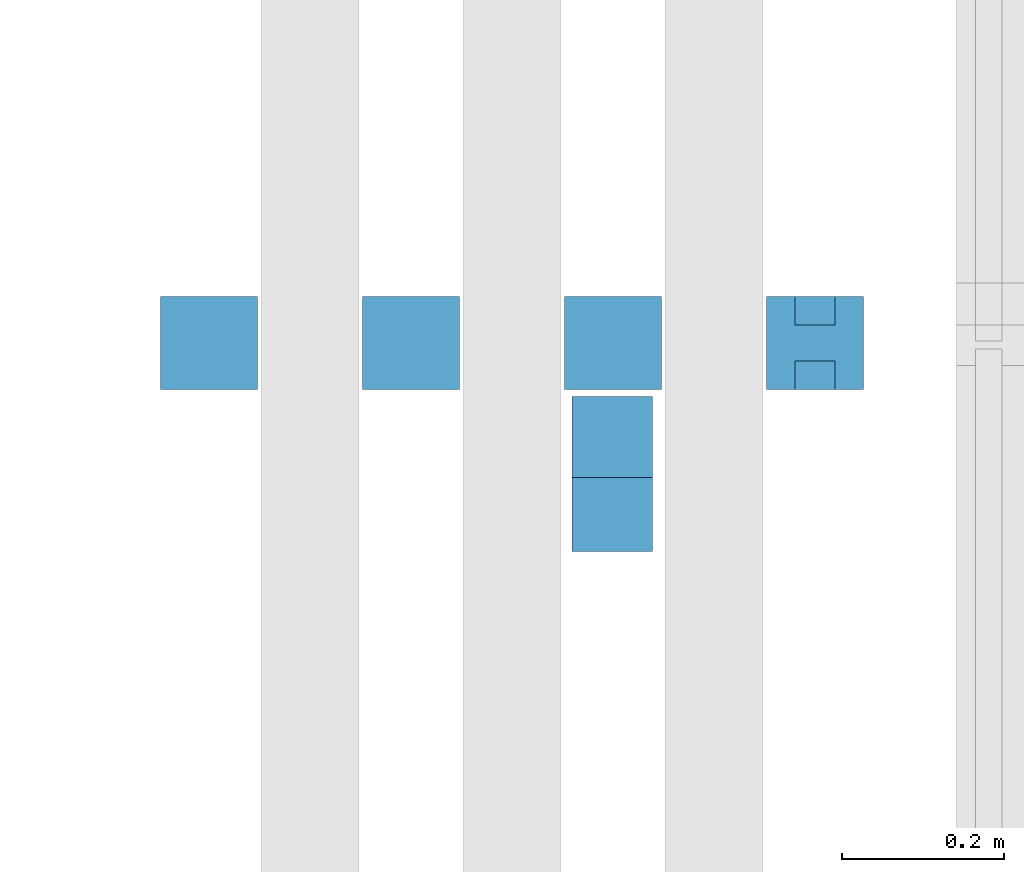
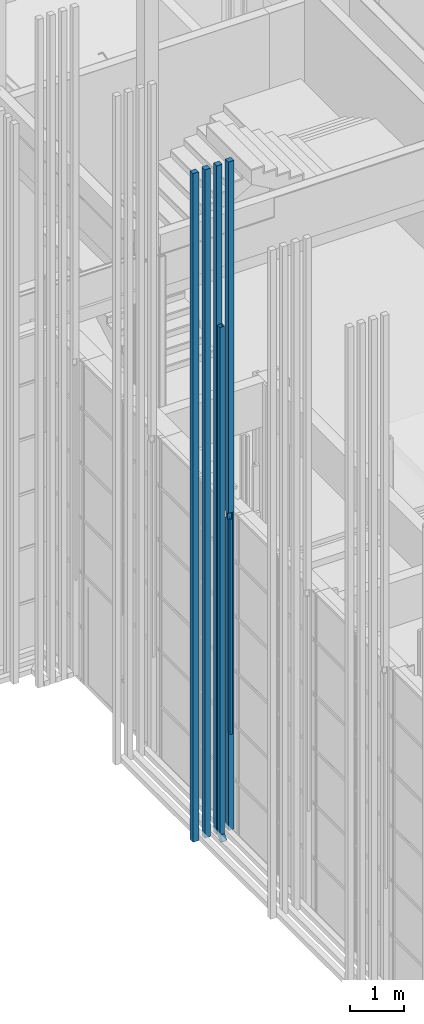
# One storey, part 139 of 260: 4 discrete accessories.
"""IFC2X3 building model written with IfcOpenShell, lengths in millimetres."""

import ifcopenshell
import ifcopenshell.guid

model = None  # the IFC model being written
_history = None  # IfcOwnerHistory: only IFC2X3 demands one
_inside = {}  # id of a spatial element -> (the spatial element, [elements in it])
_under = {}  # id of a project, library or spatial element -> (it, [spatial elements below it])
_declared = {}  # id of a project -> (the project, [libraries it declares])
_typed = {}  # id of a type object -> (the type object, [elements of that type])
_made_of = {}  # id of a material, layer set ... -> (it, [elements and type objects made of it])


def new_model(schema):
    """Start an empty IFC model of exactly this schema.

    Asked for "IFC4X3", IfcOpenShell would pick the latest addendum, in which some entities
    have other attributes; the version numbers below select the first issue.
    IFC2X3 requires an IfcOwnerHistory on every rooted entity: one is made here for all.
    """
    global model, _history
    if schema == "IFC4X3":
        model = ifcopenshell.file(schema_version=(4, 3, 0, 0))
    else:
        model = ifcopenshell.file(schema=schema)
    _inside.clear()
    _under.clear()
    _declared.clear()
    _typed.clear()
    _made_of.clear()
    _history = None
    if model.schema == "IFC2X3":
        org = make("IfcOrganization", Name="unknown")
        user = make(
            "IfcPersonAndOrganization",
            ThePerson=make("IfcPerson", FamilyName="unknown"),
            TheOrganization=org,
        )
        app = make(
            "IfcApplication",
            ApplicationDeveloper=org,
            Version="unknown",
            ApplicationFullName="unknown",
            ApplicationIdentifier="unknown",
        )
        _history = make(
            "IfcOwnerHistory",
            OwningUser=user,
            OwningApplication=app,
            ChangeAction="ADDED",
            CreationDate=0,
        )
    return model


def make(cls, **values):
    """One entity of the class cls with the attributes given. An attribute that is None is left unset."""
    return model.create_entity(
        cls, **{name: value for name, value in values.items() if value is not None}
    )


def entity(cls, *values):
    """Any entity or typed value of the class cls, its attributes in the order of the schema. None: left unset."""
    e = model.create_entity(cls)
    for i, value in enumerate(values):
        if value is not None:
            e[i] = value
    return e


def rooted(cls, **values):
    """An entity with a GlobalId (a new one), such as an element, a storey or a relation."""
    return make(cls, GlobalId=ifcopenshell.guid.new(), OwnerHistory=_history, **values)


def si_unit(unit_type, name, prefix=None):
    """IfcSIUnit, for example si_unit("LENGTHUNIT", "METRE", prefix="MILLI")."""
    return make("IfcSIUnit", UnitType=unit_type, Prefix=prefix, Name=name)


def converted_unit(unit_type, name, factor, base, dimensions=None, offset=None):
    """IfcConversionBasedUnit, such as the inch: factor (a typed value) times the base unit."""
    return make(
        "IfcConversionBasedUnit"
        if offset is None
        else "IfcConversionBasedUnitWithOffset",
        ConversionOffset=offset,
        Dimensions=None
        if dimensions is None
        else entity("IfcDimensionalExponents", *dimensions),
        UnitType=unit_type,
        Name=name,
        ConversionFactor=make(
            "IfcMeasureWithUnit", ValueComponent=factor, UnitComponent=base
        ),
    )


def derived_unit(unit_type, elements):
    """IfcDerivedUnit: a product of units, each with its exponent."""
    return make(
        "IfcDerivedUnit",
        Elements=[
            make("IfcDerivedUnitElement", Unit=unit, Exponent=power)
            for unit, power in elements
        ],
        UnitType=unit_type,
    )


def money_unit(currency):
    """IfcMonetaryUnit."""
    return make("IfcMonetaryUnit", Currency=currency)


def assignment(units):
    """IfcUnitAssignment: the units of a project."""
    return None if units is None else make("IfcUnitAssignment", Units=units)


def point(xyz):
    """IfcCartesianPoint."""
    return None if xyz is None else make("IfcCartesianPoint", Coordinates=xyz)


def direction(xyz):
    """IfcDirection."""
    return None if xyz is None else make("IfcDirection", DirectionRatios=xyz)


def frame(location, z_axis=None, x_axis=None):
    """IfcAxis2Placement3D, a coordinate frame: its origin and axes. An axis left out is left unset."""
    return make(
        "IfcAxis2Placement3D",
        Location=point(location),
        Axis=direction(z_axis),
        RefDirection=direction(x_axis),
    )


def origin_with_axes():
    """The frame at (0, 0, 0) with the z axis (0, 0, 1) and the x axis (1, 0, 0) written out."""
    return frame((0.0, 0.0, 0.0), z_axis=(0.0, 0.0, 1.0), x_axis=(1.0, 0.0, 0.0))


def place(relative_to, where):
    """IfcLocalPlacement: puts the frame where relative to a parent placement (None: the world)."""
    return make(
        "IfcLocalPlacement", PlacementRelTo=relative_to, RelativePlacement=where
    )


def context(
    kind, dimensions, precision=None, world=None, true_north=None, identifier=None
):
    """IfcGeometricRepresentationContext, for example the 3D "Model" context."""
    return make(
        "IfcGeometricRepresentationContext",
        ContextIdentifier=identifier,
        ContextType=kind,
        CoordinateSpaceDimension=dimensions,
        Precision=precision,
        WorldCoordinateSystem=world,
        TrueNorth=true_north,
    )


def subcontext(parent, identifier, kind, view, scale=None):
    """IfcGeometricRepresentationSubContext, for example "Body" below "Model"."""
    return make(
        "IfcGeometricRepresentationSubContext",
        ContextIdentifier=identifier,
        ContextType=kind,
        ParentContext=parent,
        TargetScale=scale,
        TargetView=view,
    )


def project(units=None, contexts=None):
    """IfcProject with its units and contexts."""
    return rooted(
        "IfcProject",
        Name="project",
        RepresentationContexts=contexts,
        UnitsInContext=assignment(units),
    )


def spatial(cls, under=None, at=None, **own):
    """A site, building, storey or space (cls), placed at a placement, below another one or the project."""
    s = rooted(cls, ObjectPlacement=at, **own)
    if under is not None:
        _under.setdefault(under.id(), (under, []))[1].append(s)
    return s


def faces_of(points, faces, orient=None, outer=None):
    """IfcFace entities. A face is a list of loops; a loop is a list of indices into points, from 0.

    orient and outer hold one flag for each loop. By default every Orientation is true, the
    first loop of a face is its IfcFaceOuterBound and the others are IfcFaceBound.
    """
    made = []
    for i, loops in enumerate(faces):
        bounds = []
        for j, loop in enumerate(loops):
            is_outer = j == 0 if outer is None else outer[i][j]
            bounds.append(
                make(
                    "IfcFaceOuterBound" if is_outer else "IfcFaceBound",
                    Bound=make("IfcPolyLoop", Polygon=[points[k] for k in loop]),
                    Orientation=True if orient is None else orient[i][j],
                )
            )
        made.append(make("IfcFace", Bounds=bounds))
    return made


def open_shell(faces, orient=None, outer=None):
    """The faces of one IfcOpenShell. surface_model builds it on its shared points."""
    return ("IfcOpenShell", faces, orient, outer)


def faceted_brep(points, faces, orient=None, outer=None, voids=None):
    """IfcFacetedBrep: a solid bounded by flat faces; with voids (closed shells), ...WithVoids."""
    shared = [point(p) for p in points]
    hull = make("IfcClosedShell", CfsFaces=faces_of(shared, faces, orient, outer))
    if voids is None:
        return make("IfcFacetedBrep", Outer=hull)
    return make(
        "IfcFacetedBrepWithVoids",
        Outer=hull,
        Voids=[
            make(cls, CfsFaces=faces_of(shared, fs, o, b)) for cls, fs, o, b in voids
        ],
    )


def surface_model(cls, points, shells):
    """IfcFaceBasedSurfaceModel or IfcShellBasedSurfaceModel (cls): surfaces that need not close."""
    shared = [point(p) for p in points]
    made = [make(c, CfsFaces=faces_of(shared, fs, o, b)) for c, fs, o, b in shells]
    if cls == "IfcFaceBasedSurfaceModel":
        return make(cls, FbsmFaces=made)
    return make(cls, SbsmBoundary=made)


def shape(context_of_items, identifier, shape_type, items):
    """IfcShapeRepresentation: the items that make up one representation, for example the "Body"."""
    return make(
        "IfcShapeRepresentation",
        ContextOfItems=context_of_items,
        RepresentationIdentifier=identifier,
        RepresentationType=shape_type,
        Items=items,
    )


def material(Name=None, Category=None):
    """IfcMaterial."""
    return make("IfcMaterial", Name=Name, Category=Category)


def material_list(materials):
    """IfcMaterialList."""
    return make("IfcMaterialList", Materials=materials)


def made_of(thing, what):
    """Note that an element or type object is made of a material, layer set ...; save() writes the relation."""
    if what is not None:
        _made_of.setdefault(what.id(), (what, []))[1].append(thing)
    return thing


def type_object(cls, material=None, **own):
    """A type object (cls), such as IfcWallType, which elements share."""
    return made_of(rooted(cls, **own), material)


def element(
    cls,
    number,
    at=None,
    inside=None,
    cuts=None,
    type_object=None,
    material=None,
    context=None,
    identifier="Body",
    shape_type=None,
    held_by="IfcProductDefinitionShape",
    body=None,
    shapes=None,
    **own,
):
    """One element of the class cls, such as IfcWall. Its Tag is "e" and its number.

    at: its placement. inside: the storey or other place that contains it. cuts: it is an
    opening in that element (IfcRelVoidsElement). A single representation is given by context,
    identifier, shape_type and body (its items); several are given by shapes. held_by: the class
    of the entity that holds the representations. save() writes the other relations.
    """
    e = rooted(cls, Tag="e%d" % number, ObjectPlacement=at, **own)
    if body is not None:
        shapes = [shape(context, identifier, shape_type, body)]
    if shapes is not None:
        e.Representation = make(held_by, Representations=shapes)
    if inside is not None:
        _inside.setdefault(inside.id(), (inside, []))[1].append(e)
    if cuts is not None:
        rooted(
            "IfcRelVoidsElement", RelatingBuildingElement=cuts, RelatedOpeningElement=e
        )
    if type_object is not None:
        _typed.setdefault(type_object.id(), (type_object, []))[1].append(e)
    return made_of(e, material)


def aggregate(whole, parts):
    """IfcRelAggregates: a whole, such as a stair, and the parts it consists of."""
    return rooted("IfcRelAggregates", RelatingObject=whole, RelatedObjects=parts)


def save(model, path):
    """Write the relations noted so far, then the file.

    IfcRelAggregates (storeys below a building ...), IfcRelContainedInSpatialStructure (elements
    in a storey), IfcRelDefinesByType, IfcRelAssociatesMaterial and IfcRelDeclares: one each for
    every whole, place, type object, material and project.
    """
    for whole, parts in _under.values():
        aggregate(whole, parts)
    for where, things in _inside.values():
        rooted(
            "IfcRelContainedInSpatialStructure",
            RelatedElements=things,
            RelatingStructure=where,
        )
    for kind, things in _typed.values():
        rooted("IfcRelDefinesByType", RelatedObjects=things, RelatingType=kind)
    for what, things in _made_of.values():
        rooted("IfcRelAssociatesMaterial", RelatedObjects=things, RelatingMaterial=what)
    for by, libraries in _declared.values():
        rooted("IfcRelDeclares", RelatingContext=by, RelatedDefinitions=libraries)
    model.write(path)


model = new_model("IFC2X3")

# Units and contexts
model_context = context("Model", 3, precision=0.01, world=origin_with_axes(), true_north=direction((0.0, 1.0)))
body_context = subcontext(model_context, "Body", "Model", "MODEL_VIEW")
ifc_project = project(units=[si_unit("LENGTHUNIT", "METRE", prefix="MILLI"), si_unit("AREAUNIT", "SQUARE_METRE"), si_unit("VOLUMEUNIT", "CUBIC_METRE"), converted_unit("PLANEANGLEUNIT", "DEGREE", entity("IfcPlaneAngleMeasure", 0.0174532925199), si_unit("PLANEANGLEUNIT", "RADIAN"), dimensions=[0, 0, 0, 0, 0, 0, 0]), money_unit("EUR"), converted_unit("TIMEUNIT", "Year", entity("IfcTimeMeasure", 31556926.0), si_unit("TIMEUNIT", "SECOND"), dimensions=[0, 0, 1, 0, 0, 0, 0]), si_unit("MASSUNIT", "GRAM", prefix="KILO"), si_unit("THERMODYNAMICTEMPERATUREUNIT", "DEGREE_CELSIUS"), si_unit("LUMINOUSINTENSITYUNIT", "LUMEN"), si_unit("ENERGYUNIT", "JOULE", prefix="MEGA"), derived_unit("THERMALCONDUCTANCEUNIT", [(si_unit("POWERUNIT", "WATT"), 1), (si_unit("LENGTHUNIT", "METRE"), -1), (si_unit("THERMODYNAMICTEMPERATUREUNIT", "KELVIN"), -1)]), derived_unit("SPECIFICHEATCAPACITYUNIT", [(si_unit("ENERGYUNIT", "JOULE"), 1), (si_unit("MASSUNIT", "GRAM", prefix="KILO"), -1), (si_unit("THERMODYNAMICTEMPERATUREUNIT", "KELVIN"), -1)]), derived_unit("MASSDENSITYUNIT", [(si_unit("MASSUNIT", "GRAM", prefix="KILO"), 1), (si_unit("VOLUMEUNIT", "CUBIC_METRE"), -1)])], contexts=[model_context])

# Site, building, storey
site_placement = place(None, origin_with_axes())
site = spatial("IfcSite", under=ifc_project, at=site_placement, Name="Kolde pst 67a", CompositionType="ELEMENT")
building_placement = place(site_placement, origin_with_axes())
building = spatial("IfcBuilding", under=site, at=building_placement, Name="Riigigümnaasium", CompositionType="ELEMENT")
storey_placement = place(building_placement, origin_with_axes())
storey = spatial("IfcBuildingStorey", under=building, at=storey_placement, Name="1. korrus", CompositionType="ELEMENT", Elevation=0.0)

# Discrete accessories
ifc_material_1 = material(Name="_VÄLISVIIMISTLUS - sõrmjätkatud puitprussid 120x115mm, liitekohad vähemärgatavad, Platowood sõrmjätkatud kuusk või samaväärne; eeltöödeldud tuletõkkevõõbaga, tuletundlikkus B-s1, d0, Woodsafe Exterior WFX™ või samaväärne; kinnitused vastavalt EK osale")
ifc_material_list = material_list([ifc_material_1, ifc_material_1, ifc_material_1, ifc_material_1])
discrete_accessory_type_1 = type_object("IfcDiscreteAccessoryType", Name="120 4-ne vertikaalne 870 x 115")
discrete_accessory_1_placement = place(storey_placement, frame((47687.9824571, 16796.8243551, 280.0), z_axis=(0.0, 0.0, 1.0), x_axis=(-0.999999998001, -6.32316306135e-05, 0.0)))
element("IfcDiscreteAccessory", 1, at=discrete_accessory_1_placement, inside=storey, type_object=discrete_accessory_type_1, material=ifc_material_list, Name="Päikesevarjestus", context=body_context, shape_type="Brep", body=[
    faceted_brep([(97.9898434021, 10.0846705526, 6989.99966445), (47.989843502, 10.0878321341, 6989.99966445), (47.990204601, 10.0878321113, 7139.99966445), (133.0, 10.0824568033, 7139.99966445), (133.0, 10.0824568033, 6989.99966445), (97.9898434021, 10.0846705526, 2150.0), (47.989843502, 10.0878321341, 2150.0), (47.9920510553, 45.0000000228, 6989.99966445), (47.9924121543, 45.0, 7139.99966445), (133.0, 45.0, 7139.99966445), (133.0, 45.0, 6989.99966445), (133.0, 45.0, 15050.0), (133.0, -70.0, 15050.0), (133.0, -70.0, 7139.99966445), (133.0, -34.9172920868, 7139.99966445), (133.0, -34.9172920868, 6989.99966445), (133.0, -70.0, 6989.99966445), (133.0, -70.0, 0.0), (133.0, 45.0, 0.0), (97.9920511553, 45.0, 6989.99966445), (97.9920511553, 45.0, 2150.0), (47.9920510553, 45.0, 2150.0), (13.0, 45.0, 0.0), (13.0, 45.0, 15050.0), (13.0, -70.0, 15050.0), (13.0, -70.0, 0.0), (47.9851405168, -70.0, 6989.99966445), (47.9851405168, -70.0, 7139.99966445), (47.9873591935, -34.9119165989, 7139.99966445), (47.9873591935, -34.9119165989, 6989.99966445), (97.9873590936, -34.9150781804, 6989.99966445), (97.9851459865, -69.9150781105, 6989.99966445), (47.9851460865, -69.9119165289, 6989.99966445), (97.9873590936, -34.9150781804, 2150.0), (47.9873591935, -34.9119165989, 2150.0), (97.9851459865, -69.9150781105, 2150.0), (47.9851460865, -69.9119165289, 2150.0)], [[[0, 1, 2, 3, 4]], [[1, 0, 5, 6]], [[1, 7, 8, 2]], [[3, 2, 8, 9]], [[10, 4, 3, 9, 11, 12, 13, 14, 15, 16, 17, 18]], [[19, 0, 4, 10]], [[0, 19, 20, 5]], [[20, 21, 6, 5]], [[7, 1, 6, 21]], [[20, 19, 10, 18, 22, 23, 11, 9, 8, 7, 21]], [[23, 24, 12, 11]], [[25, 17, 16, 26, 27, 13, 12, 24]], [[28, 14, 13, 27]], [[28, 29, 30, 15, 14]], [[15, 30, 31, 32, 26, 16]], [[17, 25, 22, 18]], [[25, 24, 23, 22]], [[26, 32, 29, 28, 27]], [[33, 30, 29, 34]], [[35, 31, 30, 33]], [[36, 32, 31, 35]], [[34, 29, 32, 36]], [[34, 36, 35, 33]]]),
    faceted_brep([(383.0, 45.0, 0.0), (263.0, 45.0, 0.0), (263.0, 45.0, 15050.0), (383.0, 45.0, 15050.0), (383.0, -70.0, 0.0), (263.0, -70.0, 0.0), (263.0, -70.0, 15050.0), (383.0, -70.0, 15050.0)], [[[0, 1, 2, 3]], [[0, 4, 5, 1]], [[1, 5, 6, 2]], [[3, 2, 6, 7]], [[4, 0, 3, 7]], [[5, 4, 7, 6]]]),
    faceted_brep([(633.0, 45.0, 0.0), (513.0, 45.0, 0.0), (513.0, 45.0, 15050.0), (633.0, 45.0, 15050.0), (633.0, -70.0, 0.0), (513.0, -70.0, 0.0), (513.0, -70.0, 15050.0), (633.0, -70.0, 15050.0)], [[[0, 1, 2, 3]], [[0, 4, 5, 1]], [[1, 5, 6, 2]], [[3, 2, 6, 7]], [[4, 0, 3, 7]], [[5, 4, 7, 6]]]),
    faceted_brep([(883.0, 45.0, 0.0), (763.0, 45.0, 0.0), (763.0, 45.0, 15050.0), (883.0, 45.0, 15050.0), (883.0, -70.0, 0.0), (763.0, -70.0, 0.0), (763.0, -70.0, 15050.0), (883.0, -70.0, 15050.0)], [[[0, 1, 2, 3]], [[0, 4, 5, 1]], [[1, 5, 6, 2]], [[3, 2, 6, 7]], [[4, 0, 3, 7]], [[5, 4, 7, 6]]]),
])
discrete_accessory_type_2 = type_object("IfcDiscreteAccessoryType", Name="Downspout Complex 25")
discrete_accessory_2_placement = place(storey_placement, frame((47364.187369, 16692.7116086, 169.995312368), z_axis=(0.0, 0.0, 1.0), x_axis=(1.0, 0.0, 0.0)))
element("IfcDiscreteAccessory", 2, at=discrete_accessory_2_placement, inside=storey, type_object=discrete_accessory_type_2, Name="Vihmavee toru LORO-X Quadratic 100x100 mm, kuumtsingitud teras, või analoogne", context=body_context, shape_type="SurfaceModel", body=[
    surface_model("IfcShellBasedSurfaceModel", [(50.0, 50.0, 469.995312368), (50.0, -50.0, 469.995312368), (50.0, -50.0, 162.132034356), (50.0, -141.421356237, 70.7106781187), (50.0, -70.7106781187, 0.0), (50.0, 50.0, 120.710678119), (-50.0, -50.0, 469.995312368), (-50.0, -50.0, 162.132034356), (-50.0, -141.421356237, 70.7106781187), (-50.0, 50.0, 120.710678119), (-50.0, -70.7106781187, 0.0), (-50.0, 50.0, 469.995312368)], [open_shell([[[0, 1, 2, 3, 4, 5]], [[1, 6, 7, 2]], [[2, 7, 8, 3]], [[9, 5, 4, 10]], [[11, 0, 5, 9]], [[6, 11, 9, 10, 8, 7]]])]),
    surface_model("IfcShellBasedSurfaceModel", [(-50.0, -50.0, 11584.8546876), (-50.0, 50.0, 11584.8546876), (-50.0, 50.0, 469.995312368), (-50.0, -50.0, 469.995312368), (50.0, 50.0, 11584.8546876), (50.0, 50.0, 469.995312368), (50.0, -50.0, 11584.8546876), (50.0, -50.0, 469.995312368)], [open_shell([[[0, 1, 2, 3]], [[1, 4, 5, 2]], [[6, 0, 3, 7]], [[4, 6, 7, 5]]])]),
])
ifc_material_2 = material(Name="_METALL - teras")
discrete_accessory_type_3 = type_object("IfcDiscreteAccessoryType", Name="_METALL - teras 50 x 35")
discrete_accessory_3_placement = place(storey_placement, frame((47614.9928905, 16849.2332373, 2430.0), z_axis=(0.0, 0.0, 1.0), x_axis=(-1.0, 0.0, 0.0)))
element("IfcDiscreteAccessory", 3, at=discrete_accessory_3_placement, inside=storey, type_object=discrete_accessory_type_3, material=ifc_material_2, Name="Varjestuskardina külgsiin RENSON või analoog", context=body_context, shape_type="Brep", body=[
    faceted_brep([(-25.0, -17.5, 4839.99966445), (-25.0, -17.5, 0.0), (25.0, -17.5, 0.0), (25.0, -17.5, 4839.99966445), (-25.0, 17.5, 4839.99966445), (-25.0, 17.5, 0.0), (25.0, 17.5, 0.0), (25.0, 17.5, 4839.99966445)], [[[0, 1, 2, 3]], [[4, 5, 1, 0]], [[2, 1, 5, 6]], [[3, 2, 6, 7]], [[4, 0, 3, 7]], [[7, 6, 5, 4]]]),
])
discrete_accessory_4_placement = place(storey_placement, frame((47614.9932516, 16769.2334885, 2430.0), z_axis=(0.0, 0.0, 1.0), x_axis=(1.0, 0.0, 0.0)))
element("IfcDiscreteAccessory", 4, at=discrete_accessory_4_placement, inside=storey, type_object=discrete_accessory_type_3, material=ifc_material_2, Name="Varjestuskardina külgsiin RENSON või analoog", context=body_context, shape_type="Brep", body=[
    faceted_brep([(25.0, 17.5, 4839.99966445), (25.0, 17.5, 0.0), (-25.0, 17.5, 0.0), (-25.0, 17.5, 4839.99966445), (25.0, -17.5, 4839.99966445), (25.0, -17.5, 0.0), (-25.0, -17.5, 0.0), (-25.0, -17.5, 4839.99966445)], [[[0, 1, 2, 3]], [[4, 5, 1, 0]], [[2, 1, 5, 6]], [[3, 2, 6, 7]], [[4, 0, 3, 7]], [[7, 6, 5, 4]]]),
])

save(model, "model.ifc")
